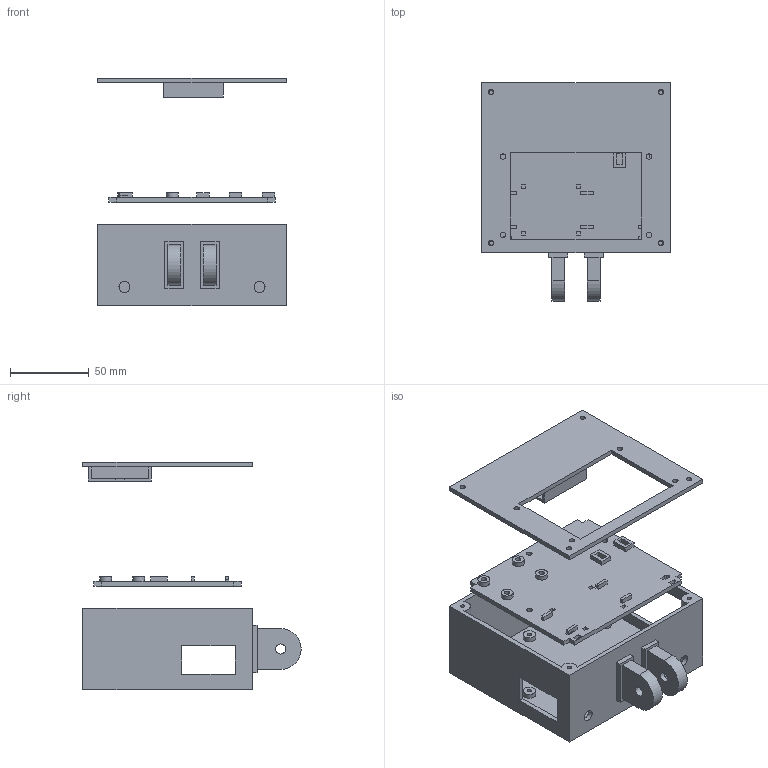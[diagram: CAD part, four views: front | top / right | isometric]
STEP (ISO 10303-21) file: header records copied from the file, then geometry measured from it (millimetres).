
FILE_DESCRIPTION(('Open CASCADE Model'),'2;1');
FILE_NAME('Open CASCADE Shape Model','2026-11-06T11:30:49',('Author'),( 'Open CASCADE'),'Open CASCADE STEP processor 7.8','Open CASCADE 7.8' ,'Unknown');
FILE_SCHEMA(('AUTOMOTIVE_DESIGN { 1 0 10303 214 1 1 1 1 }'));
Length unit declared in the file: millimetre
Products named in the file (4): LapTimer_exploded; 01_Housing; 03_Electronics_carrier; 02_Front_bezel
Assembly tree (3 placements, depth 2):
  LapTimer_exploded
    01_Housing
    03_Electronics_carrier
    02_Front_bezel
Bounding box: 120 x 139 x 145 mm (x, y, z)
Volume: 179677.3 mm3; surface area: 117753 mm2
Topology: 3 solids, 3 shells, 225 faces, 565 edges, 375 vertices
Faces by surface type: plane 182, cylinder 43
Full cylindrical faces by diameter (mm): 2.7 x8, 3.4 x15, 6.4 x2, 7 x2, 7.5 x4, 8 x4
Entity records: 13878 total; most frequent: CARTESIAN_POINT 2639, DIRECTION 1911, LINE 1191, VECTOR 1191, ORIENTED_EDGE 1130, PCURVE 1130, DEFINITIONAL_REPRESENTATION 1130, EDGE_CURVE 565
